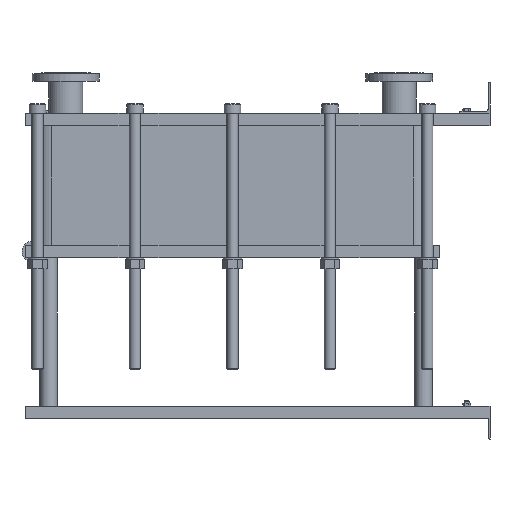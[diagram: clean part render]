
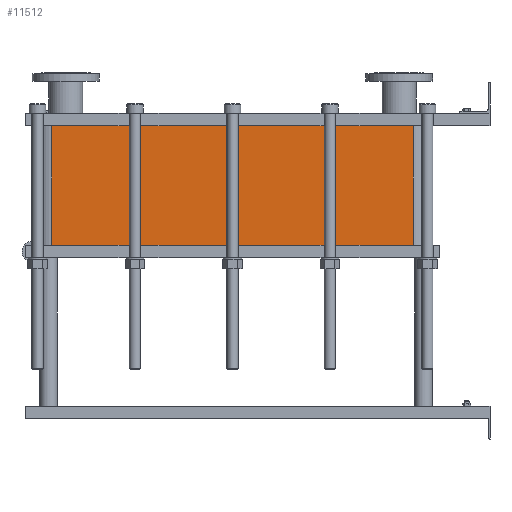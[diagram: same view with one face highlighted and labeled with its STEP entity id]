
A CAD part, left-side view. The second image highlights one B-rep face of the part: STEP entity #11512.
In plain terms, the highlighted planar face has unit normal (-1, 0, 0).
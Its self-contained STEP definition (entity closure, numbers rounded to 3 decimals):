
#1129=LINE('',#23232,#2102);
#1130=LINE('',#23236,#2103);
#1131=LINE('',#23238,#2104);
#1132=LINE('',#23239,#2105);
#2102=VECTOR('',#15887,10.);
#2103=VECTOR('',#15892,10.);
#2104=VECTOR('',#15893,10.);
#2105=VECTOR('',#15894,10.);
#3267=FACE_OUTER_BOUND('',#4093,.T.);
#4093=EDGE_LOOP('',(#10103,#10104,#10105,#10106));
#5642=VERTEX_POINT('',#23229);
#5643=VERTEX_POINT('',#23231);
#5644=VERTEX_POINT('',#23235);
#5645=VERTEX_POINT('',#23237);
#7159=EDGE_CURVE('',#5643,#5642,#1129,.T.);
#7161=EDGE_CURVE('',#5642,#5644,#1130,.T.);
#7162=EDGE_CURVE('',#5645,#5644,#1131,.T.);
#7163=EDGE_CURVE('',#5645,#5643,#1132,.T.);
#10103=ORIENTED_EDGE('',*,*,#7161,.T.);
#10104=ORIENTED_EDGE('',*,*,#7162,.F.);
#10105=ORIENTED_EDGE('',*,*,#7163,.T.);
#10106=ORIENTED_EDGE('',*,*,#7159,.T.);
#10857=PLANE('',#12751);
#11512=ADVANCED_FACE('',(#3267),#10857,.T.);
#12751=AXIS2_PLACEMENT_3D('',#23234,#15890,#15891);
#15887=DIRECTION('',(0.,0.,-1.));
#15890=DIRECTION('center_axis',(-1.,0.,0.));
#15891=DIRECTION('ref_axis',(0.,1.,0.));
#15892=DIRECTION('',(0.,-1.,0.));
#15893=DIRECTION('',(0.,0.,-1.));
#15894=DIRECTION('',(0.,1.,0.));
#23229=CARTESIAN_POINT('',(-200.,1414.,-386.4));
#23231=CARTESIAN_POINT('',(-200.,1414.,0.));
#23232=CARTESIAN_POINT('',(-200.,1414.,0.));
#23234=CARTESIAN_POINT('Origin',(-200.,248.,0.));
#23235=CARTESIAN_POINT('',(-200.,248.,-386.4));
#23236=CARTESIAN_POINT('',(-200.,539.5,-386.4));
#23237=CARTESIAN_POINT('',(-200.,248.,0.));
#23238=CARTESIAN_POINT('',(-200.,248.,0.));
#23239=CARTESIAN_POINT('',(-200.,248.,0.));
